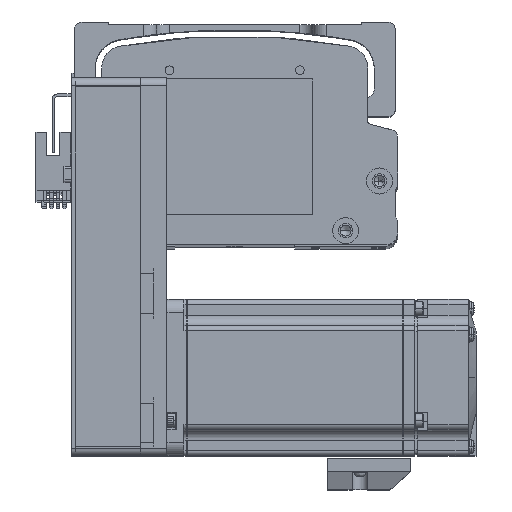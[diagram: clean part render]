
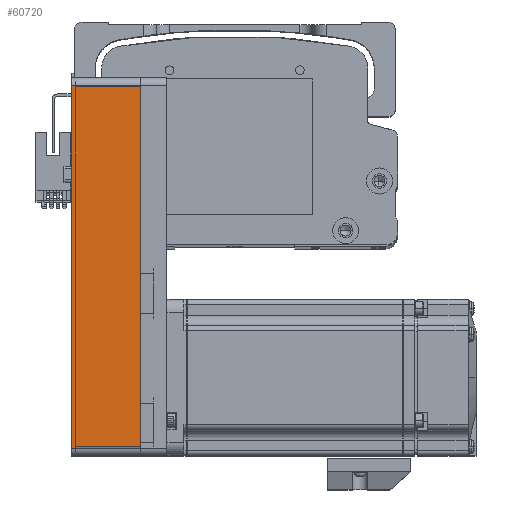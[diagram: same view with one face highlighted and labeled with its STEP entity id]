
A CAD part, top view. The second image highlights one B-rep face of the part: STEP entity #60720.
In plain terms, the highlighted planar face has unit normal (0, 0, 1) as drawn and (0, 1, 0) by its records, which use the part's own axes.
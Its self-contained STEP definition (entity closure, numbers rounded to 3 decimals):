
#684 = DIRECTION ( 'NONE',  ( -1., 0., 0. ) ) ;
#1838 = DIRECTION ( 'NONE',  ( 0., 0., -1. ) ) ;
#3960 = ORIENTED_EDGE ( 'NONE', *, *, #16347, .T. ) ;
#4372 = VERTEX_POINT ( 'NONE', #8637 ) ;
#7029 = CARTESIAN_POINT ( 'NONE',  ( 72.5, 30., 26.5 ) ) ;
#8301 = CARTESIAN_POINT ( 'NONE',  ( 69.5, 30., 26.5 ) ) ;
#8637 = CARTESIAN_POINT ( 'NONE',  ( 69.5, 30., 0. ) ) ;
#10120 = VERTEX_POINT ( 'NONE', #8301 ) ;
#11519 = EDGE_LOOP ( 'NONE', ( #57781, #49986, #48361, #3960 ) ) ;
#12078 = FACE_OUTER_BOUND ( 'NONE', #11519, .T. ) ;
#12703 = AXIS2_PLACEMENT_3D ( 'NONE', #13066, #57275, #19422 ) ;
#13066 = CARTESIAN_POINT ( 'NONE',  ( 72.5, 30., 26.5 ) ) ;
#16347 = EDGE_CURVE ( 'NONE', #10120, #4372, #55218, .T. ) ;
#19422 = DIRECTION ( 'NONE',  ( 1., 0., 0. ) ) ;
#23148 = CARTESIAN_POINT ( 'NONE',  ( -69.5, 30., 0. ) ) ;
#25549 = PLANE ( 'NONE',  #12703 ) ;
#25848 = EDGE_CURVE ( 'NONE', #28850, #31691, #58945, .T. ) ;
#26791 = LINE ( 'NONE', #7029, #41545 ) ;
#28850 = VERTEX_POINT ( 'NONE', #23148 ) ;
#29818 = CARTESIAN_POINT ( 'NONE',  ( -69.5, 30., 26.5 ) ) ;
#31691 = VERTEX_POINT ( 'NONE', #45573 ) ;
#38195 = VECTOR ( 'NONE', #73979, 1000. ) ;
#38397 = VECTOR ( 'NONE', #1838, 1000. ) ;
#41545 = VECTOR ( 'NONE', #684, 1000. ) ;
#45573 = CARTESIAN_POINT ( 'NONE',  ( -69.5, 30., 26.5 ) ) ;
#48361 = ORIENTED_EDGE ( 'NONE', *, *, #54249, .F. ) ;
#49986 = ORIENTED_EDGE ( 'NONE', *, *, #25848, .T. ) ;
#50544 = DIRECTION ( 'NONE',  ( -1., 0., 0. ) ) ;
#52266 = VECTOR ( 'NONE', #50544, 1000. ) ;
#54239 = LINE ( 'NONE', #62902, #52266 ) ;
#54249 = EDGE_CURVE ( 'NONE', #10120, #31691, #26791, .T. ) ;
#55218 = LINE ( 'NONE', #71494, #38397 ) ;
#57275 = DIRECTION ( 'NONE',  ( 0., -1., 0. ) ) ;
#57781 = ORIENTED_EDGE ( 'NONE', *, *, #72130, .T. ) ;
#58945 = LINE ( 'NONE', #29818, #38195 ) ;
#60720 = ADVANCED_FACE ( 'NONE', ( #12078 ), #25549, .F. ) ;
#62902 = CARTESIAN_POINT ( 'NONE',  ( 72.5, 30., 0. ) ) ;
#71494 = CARTESIAN_POINT ( 'NONE',  ( 69.5, 30., 26.5 ) ) ;
#72130 = EDGE_CURVE ( 'NONE', #4372, #28850, #54239, .T. ) ;
#73979 = DIRECTION ( 'NONE',  ( 0., 0., 1. ) ) ;
